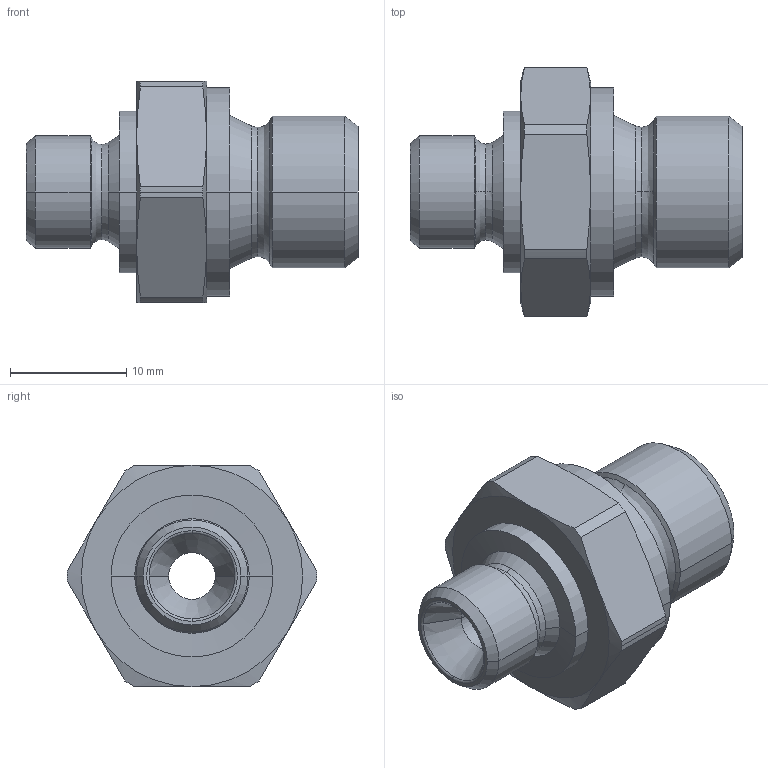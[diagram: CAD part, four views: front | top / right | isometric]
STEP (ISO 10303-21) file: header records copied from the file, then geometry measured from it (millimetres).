
FILE_DESCRIPTION((''),'2;1');
FILE_NAME('300502.stp','2006-09-11T08:08:15',(''),(''),'AutoCAD STEP 2000i','AutoCAD 2000i',', , ');
FILE_SCHEMA(('CONFIG_CONTROL_DESIGN'));
Length unit declared in the file: millimetre
Products named in the file (2): 300502.0; CHIAVE SMUSSATA#0
Assembly tree (1 placements, depth 2):
  300502.0
    CHIAVE SMUSSATA#0
Bounding box: 28.5 x 21.4 x 19 mm (x, y, z)
Volume: 3923 mm3; surface area: 2179.2 mm2
Topology: 1 solids, 1 shells, 72 faces, 170 edges, 102 vertices
Faces by surface type: cone 32, cylinder 18, plane 10, bspline 8, torus 4
Entity records: 2493 total; most frequent: CARTESIAN_POINT 746, DIRECTION 380, ORIENTED_EDGE 340, EDGE_CURVE 170, AXIS2_PLACEMENT_3D 168, VERTEX_POINT 102, CIRCLE 102, EDGE_LOOP 76
